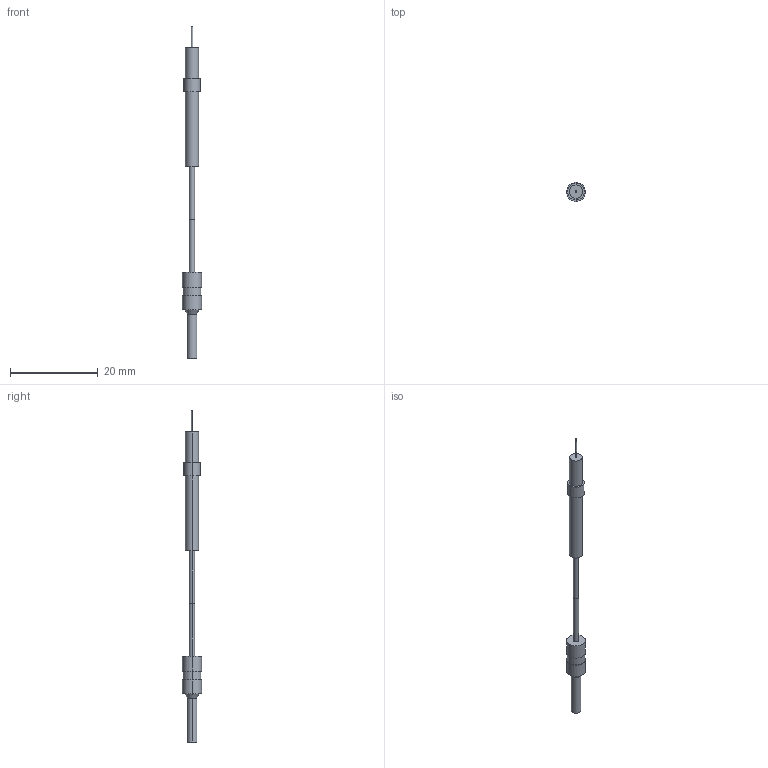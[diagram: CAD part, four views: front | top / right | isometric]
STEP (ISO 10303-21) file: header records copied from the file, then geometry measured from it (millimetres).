
FILE_DESCRIPTION (( 'STEP AP203' ), '1' );
FILE_NAME ('FT-E22.STEP', '2005-11-09T08:21:49', ( '' ), ( '' ), 'SwSTEP 2.0', 'SolidWorks 2004073', '' );
FILE_SCHEMA (( 'CONFIG_CONTROL_DESIGN' ));
Length unit declared in the file: millimetre
Products named in the file (1): FT-E22
Bounding box: 4.33 x 4.33 x 75.5 mm (x, y, z)
Volume: 396.8 mm3; surface area: 602.8 mm2
Topology: 2 solids, 2 shells, 37 faces, 70 edges, 46 vertices
Faces by surface type: cylinder 22, plane 13, cone 2
Entity records: 1029 total; most frequent: DIRECTION 192, CARTESIAN_POINT 154, ORIENTED_EDGE 140, AXIS2_PLACEMENT_3D 84, EDGE_CURVE 70, CIRCLE 46, EDGE_LOOP 46, VERTEX_POINT 46
